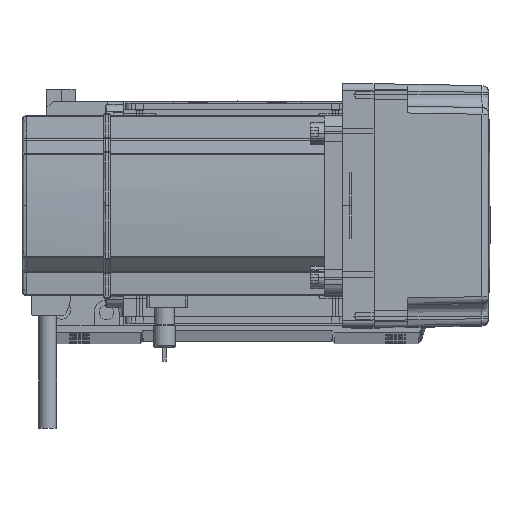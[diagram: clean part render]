
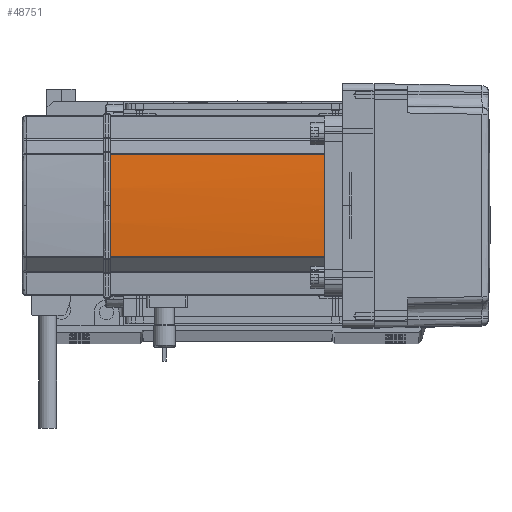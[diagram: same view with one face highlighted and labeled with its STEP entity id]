
A CAD part, top view. The second image highlights one B-rep face of the part: STEP entity #48751.
In plain terms, the highlighted cylindrical face has radius 270 mm (diameter 540 mm), a partial arc.
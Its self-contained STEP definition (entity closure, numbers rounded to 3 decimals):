
#269 = ORIENTED_EDGE ( 'NONE', *, *, #51430, .T. ) ;
#1556 = CARTESIAN_POINT ( 'NONE',  ( -39.042, 22.724, 0. ) ) ;
#3079 = CARTESIAN_POINT ( 'NONE',  ( -39.042, 22.724, 134. ) ) ;
#6356 = CIRCLE ( 'NONE', #34956, 270. ) ;
#7240 = ORIENTED_EDGE ( 'NONE', *, *, #23584, .T. ) ;
#7344 = CARTESIAN_POINT ( 'NONE',  ( 230., 0., 39. ) ) ;
#7926 = VERTEX_POINT ( 'NONE', #44227 ) ;
#8168 = DIRECTION ( 'NONE',  ( 1., 0., 0. ) ) ;
#8225 = VERTEX_POINT ( 'NONE', #3079 ) ;
#10252 = DIRECTION ( 'NONE',  ( 0., 0., -1. ) ) ;
#10988 = DIRECTION ( 'NONE',  ( 1., 0., 0. ) ) ;
#12354 = FACE_OUTER_BOUND ( 'NONE', #33734, .T. ) ;
#15499 = DIRECTION ( 'NONE',  ( 0., 0., 1. ) ) ;
#15745 = CARTESIAN_POINT ( 'NONE',  ( -39.042, 22.724, 39. ) ) ;
#17767 = VERTEX_POINT ( 'NONE', #62906 ) ;
#20155 = CARTESIAN_POINT ( 'NONE',  ( -39.042, -22.724, 39. ) ) ;
#20750 = EDGE_CURVE ( 'NONE', #49992, #7926, #25876, .T. ) ;
#21795 = DIRECTION ( 'NONE',  ( 1., 0., 0. ) ) ;
#23584 = EDGE_CURVE ( 'NONE', #7926, #17767, #44450, .T. ) ;
#25876 = LINE ( 'NONE', #36167, #61302 ) ;
#26474 = CARTESIAN_POINT ( 'NONE',  ( 230., 0., 0. ) ) ;
#26710 = DIRECTION ( 'NONE',  ( 0., 0., -1. ) ) ;
#26923 = DIRECTION ( 'NONE',  ( 0., 0., 1. ) ) ;
#27479 = AXIS2_PLACEMENT_3D ( 'NONE', #63488, #43307, #8168 ) ;
#28282 = ORIENTED_EDGE ( 'NONE', *, *, #37643, .F. ) ;
#33734 = EDGE_LOOP ( 'NONE', ( #7240, #269, #55501, #28282, #43268 ) ) ;
#34956 = AXIS2_PLACEMENT_3D ( 'NONE', #7344, #46674, #21795 ) ;
#35668 = DIRECTION ( 'NONE',  ( 1., 0., 0. ) ) ;
#36167 = CARTESIAN_POINT ( 'NONE',  ( -39.042, -22.724, 0. ) ) ;
#37280 = AXIS2_PLACEMENT_3D ( 'NONE', #40765, #10252, #35668 ) ;
#37643 = EDGE_CURVE ( 'NONE', #49992, #51747, #6356, .T. ) ;
#40765 = CARTESIAN_POINT ( 'NONE',  ( 230., 0., 134. ) ) ;
#43268 = ORIENTED_EDGE ( 'NONE', *, *, #20750, .T. ) ;
#43307 = DIRECTION ( 'NONE',  ( 0., 0., -1. ) ) ;
#44227 = CARTESIAN_POINT ( 'NONE',  ( -39.042, -22.724, 134. ) ) ;
#44450 = CIRCLE ( 'NONE', #37280, 270. ) ;
#46149 = CYLINDRICAL_SURFACE ( 'NONE', #48879, 270. ) ;
#46674 = DIRECTION ( 'NONE',  ( 0., 0., -1. ) ) ;
#48751 = ADVANCED_FACE ( 'NONE', ( #12354 ), #46149, .T. ) ;
#48879 = AXIS2_PLACEMENT_3D ( 'NONE', #26474, #26923, #10988 ) ;
#49712 = CIRCLE ( 'NONE', #27479, 270. ) ;
#49992 = VERTEX_POINT ( 'NONE', #20155 ) ;
#51430 = EDGE_CURVE ( 'NONE', #17767, #8225, #49712, .T. ) ;
#51747 = VERTEX_POINT ( 'NONE', #15745 ) ;
#55476 = EDGE_CURVE ( 'NONE', #8225, #51747, #56709, .T. ) ;
#55501 = ORIENTED_EDGE ( 'NONE', *, *, #55476, .T. ) ;
#56709 = LINE ( 'NONE', #1556, #57516 ) ;
#57516 = VECTOR ( 'NONE', #26710, 1000. ) ;
#61302 = VECTOR ( 'NONE', #15499, 1000. ) ;
#62906 = CARTESIAN_POINT ( 'NONE',  ( -40., 0., 134. ) ) ;
#63488 = CARTESIAN_POINT ( 'NONE',  ( 230., 0., 134. ) ) ;
